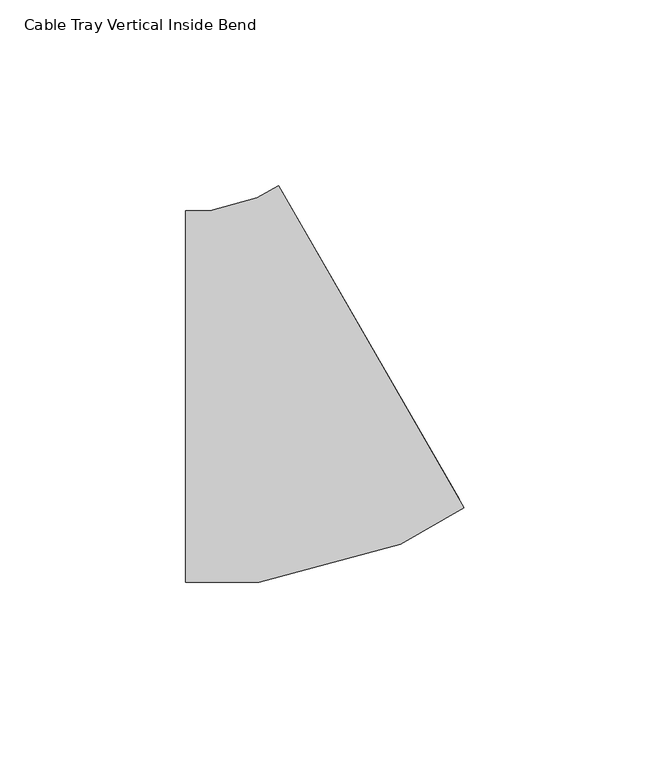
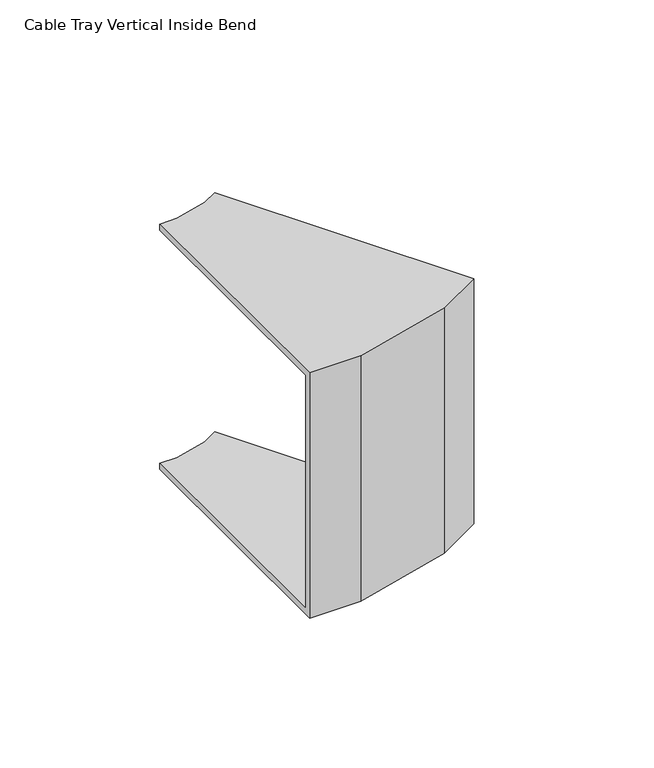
"""IFC4 building model written with IfcOpenShell, lengths in millimetres: cable carrier fitting geometry, Cable Tray Vertical Inside Bend : ELEC_ELV_TKG_N2402."""

import ifcopenshell
import ifcopenshell.guid

model = None  # the IFC model being written
_history = None  # IfcOwnerHistory: only IFC2X3 demands one
_inside = {}  # id of a spatial element -> (the spatial element, [elements in it])
_under = {}  # id of a project, library or spatial element -> (it, [spatial elements below it])
_declared = {}  # id of a project -> (the project, [libraries it declares])
_typed = {}  # id of a type object -> (the type object, [elements of that type])
_made_of = {}  # id of a material, layer set ... -> (it, [elements and type objects made of it])


def new_model(schema):
    """Start an empty IFC model of exactly this schema.

    Asked for "IFC4X3", IfcOpenShell would pick the latest addendum, in which some entities
    have other attributes; the version numbers below select the first issue.
    IFC2X3 requires an IfcOwnerHistory on every rooted entity: one is made here for all.
    """
    global model, _history
    if schema == "IFC4X3":
        model = ifcopenshell.file(schema_version=(4, 3, 0, 0))
    else:
        model = ifcopenshell.file(schema=schema)
    _inside.clear()
    _under.clear()
    _declared.clear()
    _typed.clear()
    _made_of.clear()
    _history = None
    if model.schema == "IFC2X3":
        org = make("IfcOrganization", Name="unknown")
        user = make(
            "IfcPersonAndOrganization",
            ThePerson=make("IfcPerson", FamilyName="unknown"),
            TheOrganization=org,
        )
        app = make(
            "IfcApplication",
            ApplicationDeveloper=org,
            Version="unknown",
            ApplicationFullName="unknown",
            ApplicationIdentifier="unknown",
        )
        _history = make(
            "IfcOwnerHistory",
            OwningUser=user,
            OwningApplication=app,
            ChangeAction="ADDED",
            CreationDate=0,
        )
    return model


def make(cls, **values):
    """One entity of the class cls with the attributes given. An attribute that is None is left unset."""
    return model.create_entity(
        cls, **{name: value for name, value in values.items() if value is not None}
    )


def rooted(cls, **values):
    """An entity with a GlobalId (a new one), such as an element, a storey or a relation."""
    return make(cls, GlobalId=ifcopenshell.guid.new(), OwnerHistory=_history, **values)


def si_unit(unit_type, name, prefix=None):
    """IfcSIUnit, for example si_unit("LENGTHUNIT", "METRE", prefix="MILLI")."""
    return make("IfcSIUnit", UnitType=unit_type, Prefix=prefix, Name=name)


def assignment(units):
    """IfcUnitAssignment: the units of a project."""
    return None if units is None else make("IfcUnitAssignment", Units=units)


def point(xyz):
    """IfcCartesianPoint."""
    return None if xyz is None else make("IfcCartesianPoint", Coordinates=xyz)


def direction(xyz):
    """IfcDirection."""
    return None if xyz is None else make("IfcDirection", DirectionRatios=xyz)


def frame(location, z_axis=None, x_axis=None):
    """IfcAxis2Placement3D, a coordinate frame: its origin and axes. An axis left out is left unset."""
    return make(
        "IfcAxis2Placement3D",
        Location=point(location),
        Axis=direction(z_axis),
        RefDirection=direction(x_axis),
    )


def origin():
    """The frame at (0, 0, 0) with its axes left unset."""
    return frame((0.0, 0.0, 0.0))


def place(relative_to, where):
    """IfcLocalPlacement: puts the frame where relative to a parent placement (None: the world)."""
    return make(
        "IfcLocalPlacement", PlacementRelTo=relative_to, RelativePlacement=where
    )


def context(
    kind, dimensions, precision=None, world=None, true_north=None, identifier=None
):
    """IfcGeometricRepresentationContext, for example the 3D "Model" context."""
    return make(
        "IfcGeometricRepresentationContext",
        ContextIdentifier=identifier,
        ContextType=kind,
        CoordinateSpaceDimension=dimensions,
        Precision=precision,
        WorldCoordinateSystem=world,
        TrueNorth=true_north,
    )


def project(units=None, contexts=None):
    """IfcProject with its units and contexts."""
    return rooted(
        "IfcProject",
        Name="project",
        RepresentationContexts=contexts,
        UnitsInContext=assignment(units),
    )


def spatial(cls, under=None, at=None, **own):
    """A site, building, storey or space (cls), placed at a placement, below another one or the project."""
    s = rooted(cls, ObjectPlacement=at, **own)
    if under is not None:
        _under.setdefault(under.id(), (under, []))[1].append(s)
    return s


def faces_of(points, faces, orient=None, outer=None):
    """IfcFace entities. A face is a list of loops; a loop is a list of indices into points, from 0.

    orient and outer hold one flag for each loop. By default every Orientation is true, the
    first loop of a face is its IfcFaceOuterBound and the others are IfcFaceBound.
    """
    made = []
    for i, loops in enumerate(faces):
        bounds = []
        for j, loop in enumerate(loops):
            is_outer = j == 0 if outer is None else outer[i][j]
            bounds.append(
                make(
                    "IfcFaceOuterBound" if is_outer else "IfcFaceBound",
                    Bound=make("IfcPolyLoop", Polygon=[points[k] for k in loop]),
                    Orientation=True if orient is None else orient[i][j],
                )
            )
        made.append(make("IfcFace", Bounds=bounds))
    return made


def faceted_brep(points, faces, orient=None, outer=None, voids=None):
    """IfcFacetedBrep: a solid bounded by flat faces; with voids (closed shells), ...WithVoids."""
    shared = [point(p) for p in points]
    hull = make("IfcClosedShell", CfsFaces=faces_of(shared, faces, orient, outer))
    if voids is None:
        return make("IfcFacetedBrep", Outer=hull)
    return make(
        "IfcFacetedBrepWithVoids",
        Outer=hull,
        Voids=[
            make(cls, CfsFaces=faces_of(shared, fs, o, b)) for cls, fs, o, b in voids
        ],
    )


def shape(context_of_items, identifier, shape_type, items):
    """IfcShapeRepresentation: the items that make up one representation, for example the "Body"."""
    return make(
        "IfcShapeRepresentation",
        ContextOfItems=context_of_items,
        RepresentationIdentifier=identifier,
        RepresentationType=shape_type,
        Items=items,
    )


def source(mapping_origin, context_of_items, identifier, shape_type, items):
    """IfcRepresentationMap: a shape defined once, which mapped items show again and again."""
    return make(
        "IfcRepresentationMap",
        MappingOrigin=mapping_origin,
        MappedRepresentation=shape(context_of_items, identifier, shape_type, items),
    )


def transform(
    local_origin,
    x_axis=None,
    y_axis=None,
    z_axis=None,
    scale=None,
    scale2=None,
    scale3=None,
    uniform=True,
):
    """IfcCartesianTransformationOperator3D, or its non-uniform kind. x_axis, y_axis, z_axis: its Axis1, 2, 3."""
    if uniform:
        return make(
            "IfcCartesianTransformationOperator3D",
            Axis1=direction(x_axis),
            Axis2=direction(y_axis),
            LocalOrigin=point(local_origin),
            Scale=scale,
            Axis3=direction(z_axis),
        )
    return make(
        "IfcCartesianTransformationOperator3DnonUniform",
        Axis1=direction(x_axis),
        Axis2=direction(y_axis),
        LocalOrigin=point(local_origin),
        Scale=scale,
        Axis3=direction(z_axis),
        Scale2=scale2,
        Scale3=scale3,
    )


def mapped(mapping_source, mapping_target):
    """IfcMappedItem: shows the shape of a source again, moved by a transform."""
    return make(
        "IfcMappedItem", MappingSource=mapping_source, MappingTarget=mapping_target
    )


def made_of(thing, what):
    """Note that an element or type object is made of a material, layer set ...; save() writes the relation."""
    if what is not None:
        _made_of.setdefault(what.id(), (what, []))[1].append(thing)
    return thing


def element(
    cls,
    number,
    at=None,
    inside=None,
    cuts=None,
    type_object=None,
    material=None,
    context=None,
    identifier="Body",
    shape_type=None,
    held_by="IfcProductDefinitionShape",
    body=None,
    shapes=None,
    **own,
):
    """One element of the class cls, such as IfcWall. Its Tag is "e" and its number.

    at: its placement. inside: the storey or other place that contains it. cuts: it is an
    opening in that element (IfcRelVoidsElement). A single representation is given by context,
    identifier, shape_type and body (its items); several are given by shapes. held_by: the class
    of the entity that holds the representations. save() writes the other relations.
    """
    e = rooted(cls, Tag="e%d" % number, ObjectPlacement=at, **own)
    if body is not None:
        shapes = [shape(context, identifier, shape_type, body)]
    if shapes is not None:
        e.Representation = make(held_by, Representations=shapes)
    if inside is not None:
        _inside.setdefault(inside.id(), (inside, []))[1].append(e)
    if cuts is not None:
        rooted(
            "IfcRelVoidsElement", RelatingBuildingElement=cuts, RelatedOpeningElement=e
        )
    if type_object is not None:
        _typed.setdefault(type_object.id(), (type_object, []))[1].append(e)
    return made_of(e, material)


def aggregate(whole, parts):
    """IfcRelAggregates: a whole, such as a stair, and the parts it consists of."""
    return rooted("IfcRelAggregates", RelatingObject=whole, RelatedObjects=parts)


def save(model, path):
    """Write the relations noted so far, then the file.

    IfcRelAggregates (storeys below a building ...), IfcRelContainedInSpatialStructure (elements
    in a storey), IfcRelDefinesByType, IfcRelAssociatesMaterial and IfcRelDeclares: one each for
    every whole, place, type object, material and project.
    """
    for whole, parts in _under.values():
        aggregate(whole, parts)
    for where, things in _inside.values():
        rooted(
            "IfcRelContainedInSpatialStructure",
            RelatedElements=things,
            RelatingStructure=where,
        )
    for kind, things in _typed.values():
        rooted("IfcRelDefinesByType", RelatedObjects=things, RelatingType=kind)
    for what, things in _made_of.values():
        rooted("IfcRelAssociatesMaterial", RelatedObjects=things, RelatingMaterial=what)
    for by, libraries in _declared.values():
        rooted("IfcRelDeclares", RelatingContext=by, RelatedDefinitions=libraries)
    model.write(path)


def cable_tray_vertical_inside_bend_f7b240b8(model_context):
    return source(origin(), model_context, "Body", "Brep", [
        faceted_brep([(-26.794845, 50.0, 50.0), (-26.794845, 50.0, 47.46), (-26.794845, -47.46, 47.46), (-26.794845, -47.46, -47.46), (-26.794845, 50.0, -47.46), (-26.794845, 50.0, -50.0), (-26.794845, -50.0, -50.0), (-26.794845, -50.0, 50.0), (-1.794905, 56.6986952, 50.0), (48.204975, -29.9039145, 50.0), (48.204975, -29.9039145, -50.0), (-1.794905, 56.6986952, -50.0), (-1.794905, 56.6986952, -47.46), (46.934978, -27.7042083, -47.46), (46.934978, -27.7042083, 47.46), (-1.794905, 56.6986952, 47.46), (-20.2122377, 50.0, 50.0), (-20.2122377, 50.0, 47.46), (-7.4956146, 53.4073994, 47.46), (30.1224451, -37.4108976, 47.46), (-7.3814196, -47.46, 47.46), (-7.3814196, -47.46, -47.46), (30.1224451, -37.4108976, -47.46), (-7.4956146, 53.4073994, -47.46), (-20.2122377, 50.0, -47.46), (-20.2122377, 50.0, -50.0), (-7.4956146, 53.4073994, -50.0), (31.102846, -39.7778017, -50.0), (-7.0470232, -50.0, -50.0), (-7.0470232, -50.0, 50.0), (31.102846, -39.7778017, 50.0), (-7.4956146, 53.4073994, 50.0)], [[[0, 1, 2, 3, 4, 5, 6, 7]], [[8, 9, 10, 11, 12, 13, 14, 15]], [[1, 0, 16, 17]], [[2, 1, 17, 18, 15, 14, 19, 20]], [[3, 2, 20, 21]], [[4, 3, 21, 22, 13, 12, 23, 24]], [[5, 4, 24, 25]], [[6, 5, 25, 26, 11, 10, 27, 28]], [[7, 6, 28, 29]], [[0, 7, 29, 30, 9, 8, 31, 16]], [[17, 16, 31, 18]], [[21, 20, 19, 22]], [[25, 24, 23, 26]], [[29, 28, 27, 30]], [[18, 31, 8, 15]], [[22, 19, 14, 13]], [[26, 23, 12, 11]], [[30, 27, 10, 9]]]),
    ])


if __name__ == "__main__":
    model = new_model("IFC4")
    model_context = context("Model", 3, world=origin())
    ifc_project = project(units=[si_unit("LENGTHUNIT", "METRE", prefix="MILLI")], contexts=[model_context])
    site = spatial("IfcSite", under=ifc_project)
    building = spatial("IfcBuilding", under=site)
    placement = place(None, origin())
    cable_tray_vertical_inside_bend_shape = cable_tray_vertical_inside_bend_f7b240b8(model_context)
    element("IfcCableCarrierFitting", 1, ObjectType="Cable Tray Vertical Inside Bend : ELEC_ELV_TKG_N2402", at=placement, inside=building, context=model_context, shape_type="MappedRepresentation", body=[
        mapped(cable_tray_vertical_inside_bend_shape, transform((0.0, 0.0, 0.0), x_axis=(1.0, 0.0, 0.0), y_axis=(0.0, 1.0, 0.0), z_axis=(0.0, 0.0, 1.0))),
    ])
    save(model, "model.ifc")
